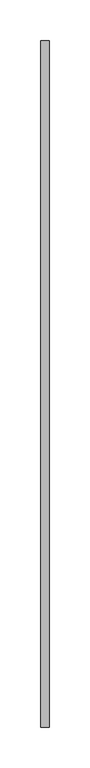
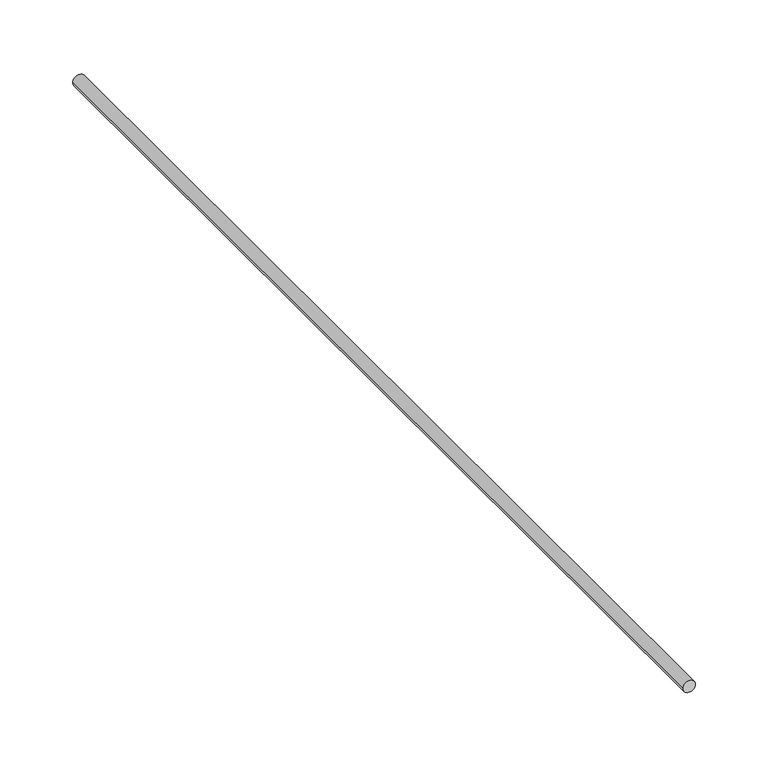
"""IFC4 building model written with IfcOpenShell, lengths in millimetres: proxy geometry, LFLO-AACA-001."""

from ifc_helpers import new_model, si_unit, point, frame, origin, origin_2d, place, context, project, spatial, circle_curve, trimmed, segment, composite_curve, outline, extrude, source, transform, mapped, element, save


def generic_models_8c3d3b65(model_context):
    return source(origin(), model_context, "Body", "SweptSolid", [
        extrude(outline(composite_curve([segment(trimmed(circle_curve(origin_2d(), 5.0), [point((0.0, 5.0))], [point((0.0, -5.0))], False, "CARTESIAN"), True, "CONTINUOUS"), segment(trimmed(circle_curve(origin_2d(), 5.0), [point((0.0, -5.0))], [point((0.0, 5.0))], False, "CARTESIAN"), True, "CONTINUOUS")], self_intersect=False)), frame((0.0, 0.0, 0.0), z_axis=(0.0, 1.0, 0.0), x_axis=(0.0, 0.0, 1.0)), (0.0, 0.0, 1.0), 840.0),
    ])


if __name__ == "__main__":
    model = new_model("IFC4")
    model_context = context("Model", 3, world=origin())
    ifc_project = project(units=[si_unit("LENGTHUNIT", "METRE", prefix="MILLI")], contexts=[model_context])
    site = spatial("IfcSite", under=ifc_project)
    building = spatial("IfcBuilding", under=site)
    placement = place(None, origin())
    generic_models_shape = generic_models_8c3d3b65(model_context)
    element("IfcBuildingElementProxy", 1, Name="LFLO-AACA-001", ObjectType="LFLO-AACA-001", at=placement, inside=building, context=model_context, shape_type="MappedRepresentation", body=[
        mapped(generic_models_shape, transform((0.0, 0.0, 0.0), x_axis=(1.0, 0.0, 0.0), y_axis=(0.0, 1.0, 0.0), z_axis=(0.0, 0.0, 1.0))),
    ])
    save(model, "model.ifc")
